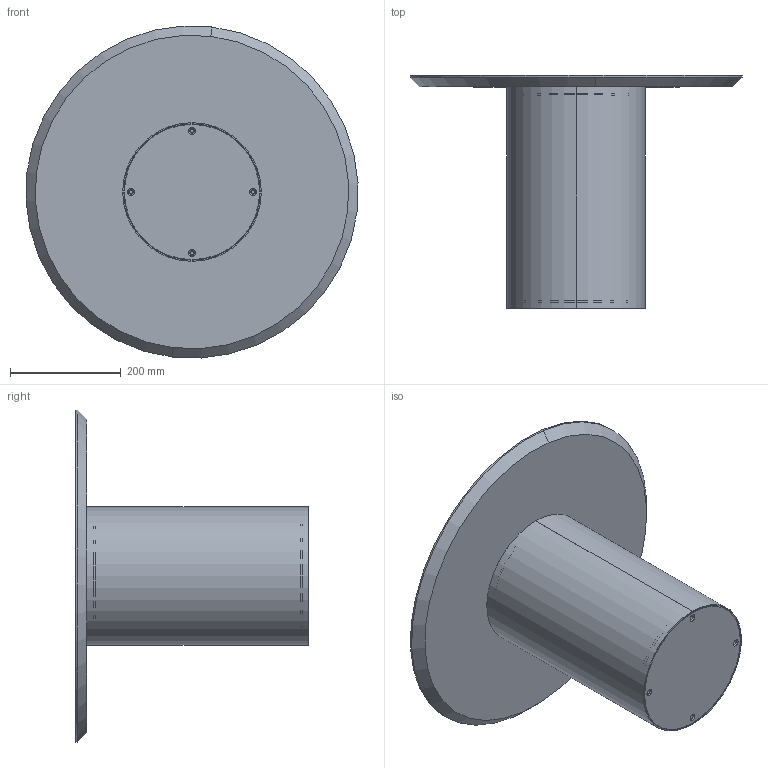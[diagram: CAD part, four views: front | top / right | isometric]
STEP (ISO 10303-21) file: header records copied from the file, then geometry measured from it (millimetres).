
FILE_DESCRIPTION (( 'STEP AP203' ), '1' );
FILE_NAME ('CL01W.STEP', '2024-08-06T10:09:10', ( '' ), ( '' ), 'SwSTEP 2.0', 'SolidWorks 2022', '' );
FILE_SCHEMA (( 'CONFIG_CONTROL_DESIGN' ));
Length unit declared in the file: millimetre
Products named in the file (10): CLB2000000_03-01-Zavorra cilindro low D.25cm; nut_M8_M8; W1XCMXX-00-Piani Rotondi legno_d.600mm SP. 20; CLB2000000_05-00-ring per piano cilindro low D.25cm; CL01W; CLB2000000_06-00-traversino per piano cilindro low D.25cm; GRANO M8_barra; CLB2000000_02-00-Fusto centrale D.25cm; CLB2000000_04-00-ring per zavorra cilindro low D.25cm; CLB2000000-01-CILINDRO LOW D.25cm BASE GREZZA
Assembly tree (9 placements, depth 3):
  CL01W
    CLB2000000-01-CILINDRO LOW D.25cm BASE GREZZA
      CLB2000000_02-00-Fusto centrale D.25cm
      CLB2000000_04-00-ring per zavorra cilindro low D.25cm
      CLB2000000_05-00-ring per piano cilindro low D.25cm
      CLB2000000_06-00-traversino per piano cilindro low D.25cm
      nut_M8_M8
      CLB2000000_03-01-Zavorra cilindro low D.25cm
    W1XCMXX-00-Piani Rotondi legno_d.600mm SP. 20
    GRANO M8_barra
Bounding box: 599.11 x 420 x 599.11 mm (x, y, z)
Volume: 6647188.9 mm3; surface area: 1410620.8 mm2
Topology: 8 solids, 8 shells, 122 faces, 292 edges, 182 vertices
Faces by surface type: cylinder 62, plane 30, cone 30
Entity records: 4738 total; most frequent: CARTESIAN_POINT 729, DIRECTION 684, ORIENTED_EDGE 568, EDGE_CURVE 284, AXIS2_PLACEMENT_3D 281, VERTEX_POINT 182, EDGE_LOOP 152, CIRCLE 146
